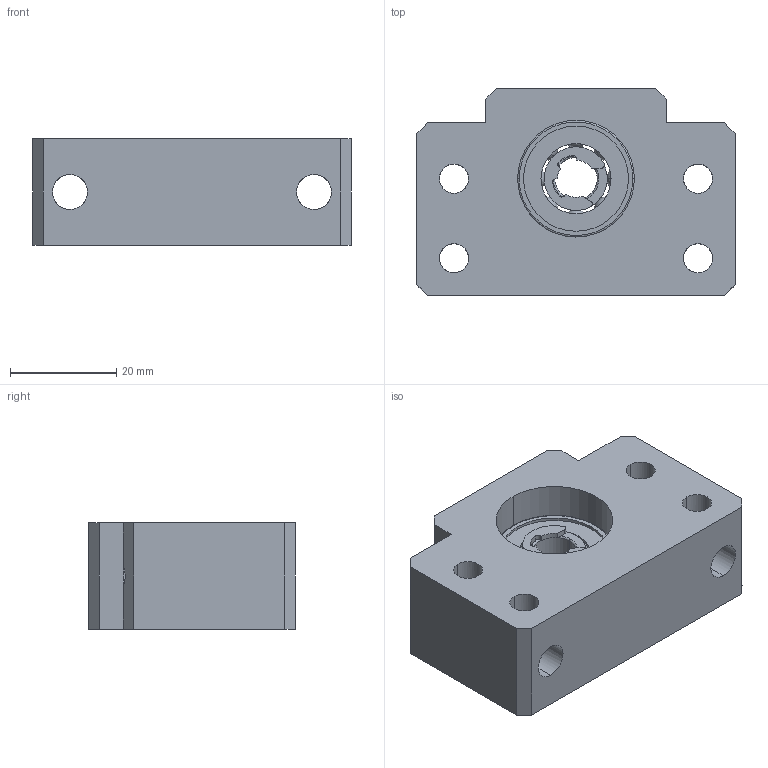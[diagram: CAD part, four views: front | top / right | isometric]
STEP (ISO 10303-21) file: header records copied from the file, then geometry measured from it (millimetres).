
FILE_DESCRIPTION (( 'STEP AP214' ), '1' );
FILE_NAME ('7.4009 BF10.STEP', '2026-03-06T06:31:34', ( '' ), ( '' ), 'SwSTEP 2.0', 'SolidWorks 2025', '' );
FILE_SCHEMA (( 'AUTOMOTIVE_DESIGN' ));
Length unit declared in the file: millimetre
Products named in the file (1): 7.4009 BF10
Bounding box: 60 x 39 x 20 mm (x, y, z)
Volume: 32938.7 mm3; surface area: 13659.9 mm2
Topology: 3 solids, 3 shells, 262 faces, 848 edges, 544 vertices
Faces by surface type: plane 79, sphere 66, cylinder 66, bspline 51
Entity records: 16986 total; most frequent: CARTESIAN_POINT 8381, ORIENTED_EDGE 1604, DIRECTION 1162, EDGE_CURVE 802, VERTEX_POINT 530, AXIS2_PLACEMENT_3D 468, EDGE_LOOP 302, B_SPLINE_CURVE_WITH_KNOTS 292
